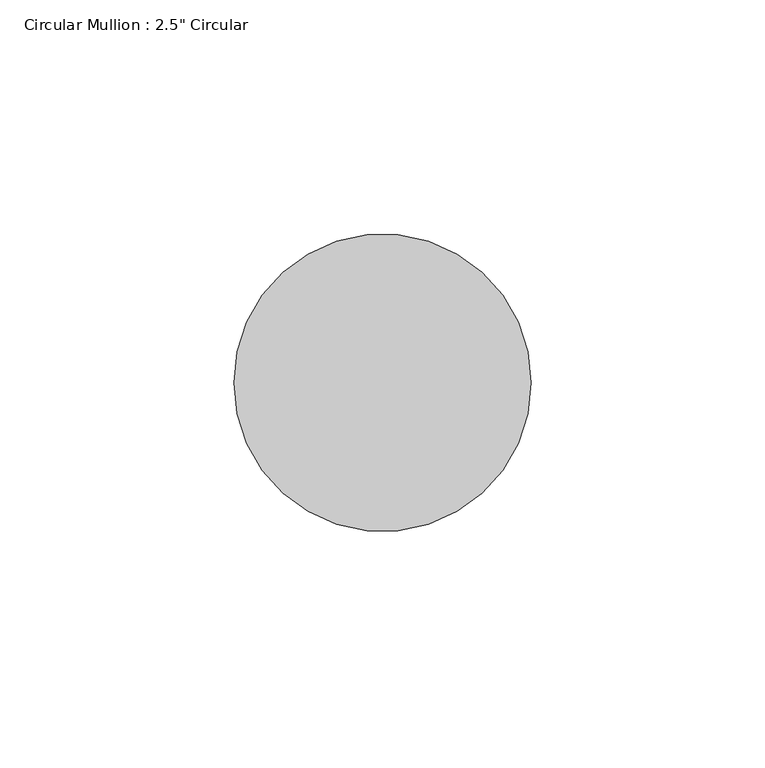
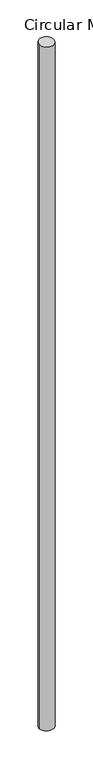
"""IFC4 building model written with IfcOpenShell, lengths in millimetres: member geometry."""

import ifcopenshell
import ifcopenshell.guid

model = None  # the IFC model being written
_history = None  # IfcOwnerHistory: only IFC2X3 demands one
_inside = {}  # id of a spatial element -> (the spatial element, [elements in it])
_under = {}  # id of a project, library or spatial element -> (it, [spatial elements below it])
_declared = {}  # id of a project -> (the project, [libraries it declares])
_typed = {}  # id of a type object -> (the type object, [elements of that type])
_made_of = {}  # id of a material, layer set ... -> (it, [elements and type objects made of it])


def new_model(schema):
    """Start an empty IFC model of exactly this schema.

    Asked for "IFC4X3", IfcOpenShell would pick the latest addendum, in which some entities
    have other attributes; the version numbers below select the first issue.
    IFC2X3 requires an IfcOwnerHistory on every rooted entity: one is made here for all.
    """
    global model, _history
    if schema == "IFC4X3":
        model = ifcopenshell.file(schema_version=(4, 3, 0, 0))
    else:
        model = ifcopenshell.file(schema=schema)
    _inside.clear()
    _under.clear()
    _declared.clear()
    _typed.clear()
    _made_of.clear()
    _history = None
    if model.schema == "IFC2X3":
        org = make("IfcOrganization", Name="unknown")
        user = make(
            "IfcPersonAndOrganization",
            ThePerson=make("IfcPerson", FamilyName="unknown"),
            TheOrganization=org,
        )
        app = make(
            "IfcApplication",
            ApplicationDeveloper=org,
            Version="unknown",
            ApplicationFullName="unknown",
            ApplicationIdentifier="unknown",
        )
        _history = make(
            "IfcOwnerHistory",
            OwningUser=user,
            OwningApplication=app,
            ChangeAction="ADDED",
            CreationDate=0,
        )
    return model


def make(cls, **values):
    """One entity of the class cls with the attributes given. An attribute that is None is left unset."""
    return model.create_entity(
        cls, **{name: value for name, value in values.items() if value is not None}
    )


def rooted(cls, **values):
    """An entity with a GlobalId (a new one), such as an element, a storey or a relation."""
    return make(cls, GlobalId=ifcopenshell.guid.new(), OwnerHistory=_history, **values)


def si_unit(unit_type, name, prefix=None):
    """IfcSIUnit, for example si_unit("LENGTHUNIT", "METRE", prefix="MILLI")."""
    return make("IfcSIUnit", UnitType=unit_type, Prefix=prefix, Name=name)


def assignment(units):
    """IfcUnitAssignment: the units of a project."""
    return None if units is None else make("IfcUnitAssignment", Units=units)


def point(xyz):
    """IfcCartesianPoint."""
    return None if xyz is None else make("IfcCartesianPoint", Coordinates=xyz)


def direction(xyz):
    """IfcDirection."""
    return None if xyz is None else make("IfcDirection", DirectionRatios=xyz)


def frame(location, z_axis=None, x_axis=None):
    """IfcAxis2Placement3D, a coordinate frame: its origin and axes. An axis left out is left unset."""
    return make(
        "IfcAxis2Placement3D",
        Location=point(location),
        Axis=direction(z_axis),
        RefDirection=direction(x_axis),
    )


def origin():
    """The frame at (0, 0, 0) with its axes left unset."""
    return frame((0.0, 0.0, 0.0))


def origin_with_axes():
    """The frame at (0, 0, 0) with the z axis (0, 0, 1) and the x axis (1, 0, 0) written out."""
    return frame((0.0, 0.0, 0.0), z_axis=(0.0, 0.0, 1.0), x_axis=(1.0, 0.0, 0.0))


def place(relative_to, where):
    """IfcLocalPlacement: puts the frame where relative to a parent placement (None: the world)."""
    return make(
        "IfcLocalPlacement", PlacementRelTo=relative_to, RelativePlacement=where
    )


def context(
    kind, dimensions, precision=None, world=None, true_north=None, identifier=None
):
    """IfcGeometricRepresentationContext, for example the 3D "Model" context."""
    return make(
        "IfcGeometricRepresentationContext",
        ContextIdentifier=identifier,
        ContextType=kind,
        CoordinateSpaceDimension=dimensions,
        Precision=precision,
        WorldCoordinateSystem=world,
        TrueNorth=true_north,
    )


def project(units=None, contexts=None):
    """IfcProject with its units and contexts."""
    return rooted(
        "IfcProject",
        Name="project",
        RepresentationContexts=contexts,
        UnitsInContext=assignment(units),
    )


def spatial(cls, under=None, at=None, **own):
    """A site, building, storey or space (cls), placed at a placement, below another one or the project."""
    s = rooted(cls, ObjectPlacement=at, **own)
    if under is not None:
        _under.setdefault(under.id(), (under, []))[1].append(s)
    return s


def ellipse_curve(where, semi_axis1, semi_axis2):
    """IfcEllipse in the frame where."""
    return make(
        "IfcEllipse", Position=where, SemiAxis1=semi_axis1, SemiAxis2=semi_axis2
    )


def shape(context_of_items, identifier, shape_type, items):
    """IfcShapeRepresentation: the items that make up one representation, for example the "Body"."""
    return make(
        "IfcShapeRepresentation",
        ContextOfItems=context_of_items,
        RepresentationIdentifier=identifier,
        RepresentationType=shape_type,
        Items=items,
    )


def source(mapping_origin, context_of_items, identifier, shape_type, items):
    """IfcRepresentationMap: a shape defined once, which mapped items show again and again."""
    return make(
        "IfcRepresentationMap",
        MappingOrigin=mapping_origin,
        MappedRepresentation=shape(context_of_items, identifier, shape_type, items),
    )


def transform(
    local_origin,
    x_axis=None,
    y_axis=None,
    z_axis=None,
    scale=None,
    scale2=None,
    scale3=None,
    uniform=True,
):
    """IfcCartesianTransformationOperator3D, or its non-uniform kind. x_axis, y_axis, z_axis: its Axis1, 2, 3."""
    if uniform:
        return make(
            "IfcCartesianTransformationOperator3D",
            Axis1=direction(x_axis),
            Axis2=direction(y_axis),
            LocalOrigin=point(local_origin),
            Scale=scale,
            Axis3=direction(z_axis),
        )
    return make(
        "IfcCartesianTransformationOperator3DnonUniform",
        Axis1=direction(x_axis),
        Axis2=direction(y_axis),
        LocalOrigin=point(local_origin),
        Scale=scale,
        Axis3=direction(z_axis),
        Scale2=scale2,
        Scale3=scale3,
    )


def mapped(mapping_source, mapping_target):
    """IfcMappedItem: shows the shape of a source again, moved by a transform."""
    return make(
        "IfcMappedItem", MappingSource=mapping_source, MappingTarget=mapping_target
    )


def made_of(thing, what):
    """Note that an element or type object is made of a material, layer set ...; save() writes the relation."""
    if what is not None:
        _made_of.setdefault(what.id(), (what, []))[1].append(thing)
    return thing


def element(
    cls,
    number,
    at=None,
    inside=None,
    cuts=None,
    type_object=None,
    material=None,
    context=None,
    identifier="Body",
    shape_type=None,
    held_by="IfcProductDefinitionShape",
    body=None,
    shapes=None,
    **own,
):
    """One element of the class cls, such as IfcWall. Its Tag is "e" and its number.

    at: its placement. inside: the storey or other place that contains it. cuts: it is an
    opening in that element (IfcRelVoidsElement). A single representation is given by context,
    identifier, shape_type and body (its items); several are given by shapes. held_by: the class
    of the entity that holds the representations. save() writes the other relations.
    """
    e = rooted(cls, Tag="e%d" % number, ObjectPlacement=at, **own)
    if body is not None:
        shapes = [shape(context, identifier, shape_type, body)]
    if shapes is not None:
        e.Representation = make(held_by, Representations=shapes)
    if inside is not None:
        _inside.setdefault(inside.id(), (inside, []))[1].append(e)
    if cuts is not None:
        rooted(
            "IfcRelVoidsElement", RelatingBuildingElement=cuts, RelatedOpeningElement=e
        )
    if type_object is not None:
        _typed.setdefault(type_object.id(), (type_object, []))[1].append(e)
    return made_of(e, material)


def aggregate(whole, parts):
    """IfcRelAggregates: a whole, such as a stair, and the parts it consists of."""
    return rooted("IfcRelAggregates", RelatingObject=whole, RelatedObjects=parts)


def save(model, path):
    """Write the relations noted so far, then the file.

    IfcRelAggregates (storeys below a building ...), IfcRelContainedInSpatialStructure (elements
    in a storey), IfcRelDefinesByType, IfcRelAssociatesMaterial and IfcRelDeclares: one each for
    every whole, place, type object, material and project.
    """
    for whole, parts in _under.values():
        aggregate(whole, parts)
    for where, things in _inside.values():
        rooted(
            "IfcRelContainedInSpatialStructure",
            RelatedElements=things,
            RelatingStructure=where,
        )
    for kind, things in _typed.values():
        rooted("IfcRelDefinesByType", RelatedObjects=things, RelatingType=kind)
    for what, things in _made_of.values():
        rooted("IfcRelAssociatesMaterial", RelatedObjects=things, RelatingMaterial=what)
    for by, libraries in _declared.values():
        rooted("IfcRelDeclares", RelatingContext=by, RelatedDefinitions=libraries)
    model.write(path)


def plane_surface(at):
    """IfcPlane: the flat surface through the origin of the frame at, square to its z axis."""
    return make("IfcPlane", Position=at)


def cylinder_surface(at, radius):
    """IfcCylindricalSurface: all points at the distance radius from the z axis of the frame at."""
    return make("IfcCylindricalSurface", Position=at, Radius=radius)


def advanced_brep(points, edges, surfaces, faces):
    """IfcAdvancedBrep: a solid bounded by faces that lie on surfaces and meet in shared edges.

    An edge is (start, end): straight between two places in points (the first is 0);
    or (start, end, curve); or (start, end, curve, False) where it runs against its curve.
    A face is (place in surfaces, loops), or (place, loops, False) where it looks against
    its surface's normal. A loop lists edges by number (the first is 1), with a minus sign
    where the edge is run from its end to its start. The first loop is the outer one.
    """
    corners = [point(p) for p in points]
    vertices = [make("IfcVertexPoint", VertexGeometry=c) for c in corners]
    made = []
    for start, end, *more in edges:
        made.append(
            make(
                "IfcEdgeCurve",
                EdgeStart=vertices[start],
                EdgeEnd=vertices[end],
                EdgeGeometry=more[0] if more else make("IfcPolyline", Points=[corners[start], corners[end]]),
                SameSense=more[1] if len(more) > 1 else True,
            )
        )
    hull = []
    for where, loops, *sense in faces:
        bounds = []
        for j, loop in enumerate(loops):
            ring = [make("IfcOrientedEdge", EdgeElement=made[abs(k) - 1], Orientation=k > 0) for k in loop]
            bounds.append(
                make(
                    "IfcFaceOuterBound" if j == 0 else "IfcFaceBound",
                    Bound=make("IfcEdgeLoop", EdgeList=ring),
                    Orientation=True,
                )
            )
        hull.append(make("IfcAdvancedFace", Bounds=bounds, FaceSurface=surfaces[where], SameSense=sense[0] if sense else True))
    return make("IfcAdvancedBrep", Outer=make("IfcClosedShell", CfsFaces=hull))


def member_976408e0(model_context):
    return source(origin(), model_context, "Body", "AdvancedBrep", [
        advanced_brep(
        [(-31.75, 0.0, 0.4086861), (31.75, 0.0, -0.4086861), (31.75, 0.0, -3061.2697605), (-31.75, 0.0, -3062.0391055)],
        [
            (0, 1, ellipse_curve(frame((0.0, 0.0, 0.0), z_axis=(-0.012855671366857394, 0.048689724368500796, -0.9987312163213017), x_axis=(-0.25496020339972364, 0.9656393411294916, 0.05035829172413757)), 31.7903351, 31.75)),
            (1, 2),
            (2, 3, ellipse_curve(frame((0.0, 0.0, -3061.654433), z_axis=(-0.01210235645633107, 0.04527658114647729, 0.9989011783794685), x_axis=(0.2579486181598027, -0.9650212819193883, 0.04686614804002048)), 31.784926, 31.75)),
            (3, 0),
            (1, 0, ellipse_curve(frame((0.0, 0.0, 0.0), z_axis=(-0.012855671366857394, 0.048689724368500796, -0.9987312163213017), x_axis=(-0.25496020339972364, 0.9656393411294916, 0.05035829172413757)), 31.7903351, 31.75)),
            (3, 2, ellipse_curve(frame((0.0, 0.0, -3061.654433), z_axis=(-0.01210235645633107, 0.04527658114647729, 0.9989011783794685), x_axis=(0.2579486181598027, -0.9650212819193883, 0.04686614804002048)), 31.784926, 31.75)),
        ],
        [
            cylinder_surface(origin_with_axes(), 31.75),
            plane_surface(frame((294.7007827, 77.8105948, 0.0), z_axis=(0.012855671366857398, -0.04868972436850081, 0.9987312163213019), x_axis=(0.2549602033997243, -0.9656393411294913, -0.05035829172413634))),
            plane_surface(frame((294.462048, 78.7092262, -3061.654433), z_axis=(0.01210235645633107, -0.04527658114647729, -0.9989011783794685), x_axis=(0.25794861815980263, -0.965021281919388, 0.04686614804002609))),
        ],
        [
            (0, [[1, 2, 3, 4]]),
            (0, [[5, -4, 6, -2]]),
            (1, [[-1, -5]]),
            (2, [[-6, -3]]),
        ],
    ),
    ])


if __name__ == "__main__":
    model = new_model("IFC4")
    model_context = context("Model", 3, world=origin())
    ifc_project = project(units=[si_unit("LENGTHUNIT", "METRE", prefix="MILLI")], contexts=[model_context])
    site = spatial("IfcSite", under=ifc_project)
    building = spatial("IfcBuilding", under=site)
    placement = place(None, origin())
    member_shape = member_976408e0(model_context)
    element("IfcMember", 1, ObjectType="Circular Mullion : 2.5\" Circular", at=placement, inside=building, context=model_context, shape_type="MappedRepresentation", body=[
        mapped(member_shape, transform((0.0, 0.0, 0.0), x_axis=(1.0, 0.0, 0.0), y_axis=(0.0, 1.0, 0.0), z_axis=(0.0, 0.0, 1.0))),
    ])
    save(model, "model.ifc")
